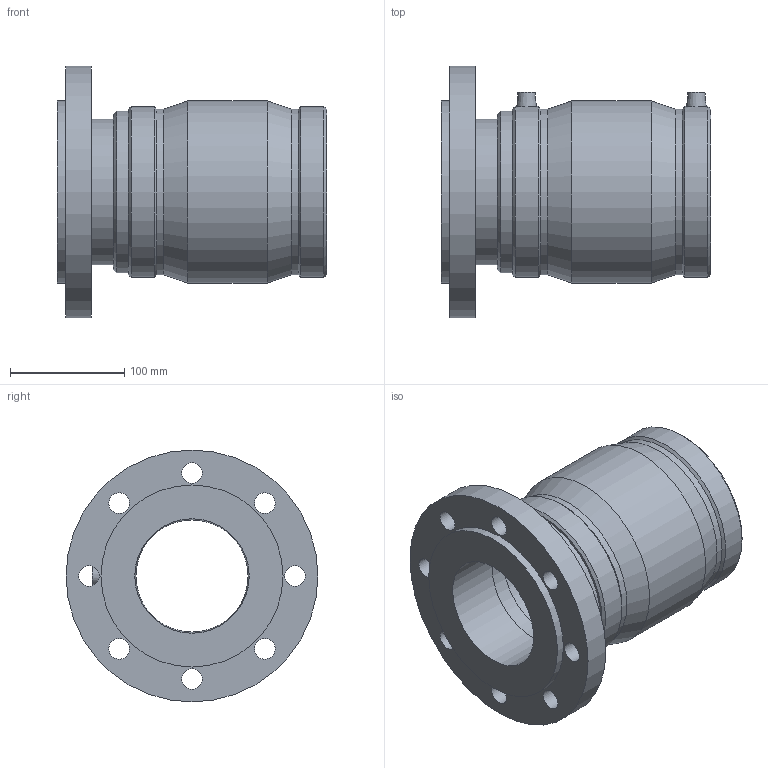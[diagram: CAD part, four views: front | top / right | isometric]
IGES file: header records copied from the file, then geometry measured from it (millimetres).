
Global section: file name: 497704125.ipt; native system: Autodesk Inventor 2015; preprocessor: unknown; author: KIM; date: 20180502.162028; units: millimetre
Bounding box: 235 x 220 x 220 mm (x, y, z)
Volume: 2404239.7 mm3; surface area: 284522.6 mm2
Topology: 1 solids, 2 shells, 55 faces, 121 edges, 80 vertices
Faces by surface type: revolution 17, plane 16, cylinder 13, cone 9
Full cylindrical faces by diameter (mm): 4 x2, 125 x2, 127.359 x1, 141.51 x1, 144.976 x2, 149.46 x2, 159 x2, 220 x1
